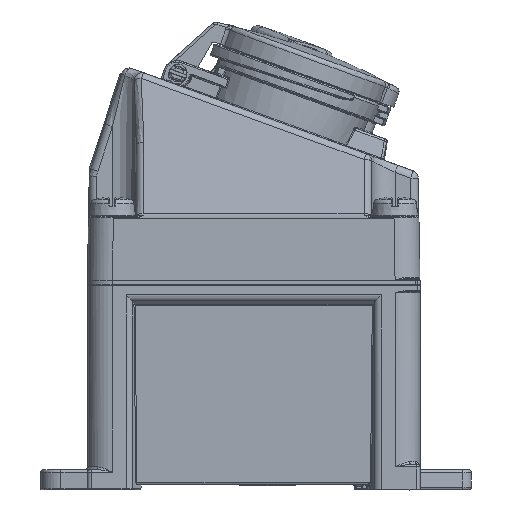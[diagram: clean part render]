
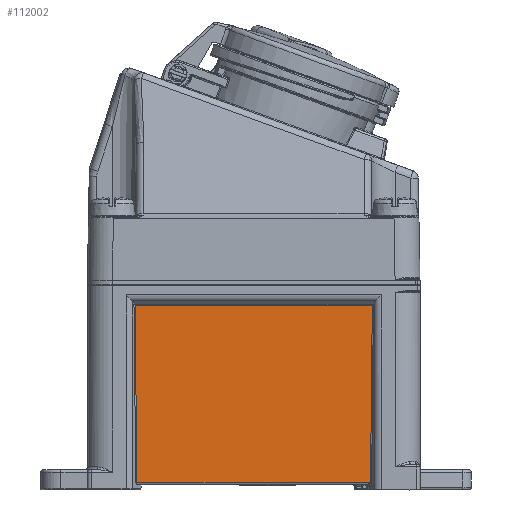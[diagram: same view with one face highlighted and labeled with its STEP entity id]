
A CAD part, left-side view. The second image highlights one B-rep face of the part: STEP entity #112002.
In plain terms, the highlighted planar face has unit normal (-1, 0, -0.018).
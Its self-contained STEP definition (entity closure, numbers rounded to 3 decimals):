
#2852=CARTESIAN_POINT('',(3.779,20.145,2.981));
#2853=CARTESIAN_POINT('',(3.779,20.153,2.982));
#2854=CARTESIAN_POINT('',(3.779,20.167,2.982));
#2855=CARTESIAN_POINT('',(3.779,20.189,2.982));
#2856=CARTESIAN_POINT('',(3.779,20.204,2.983));
#2857=CARTESIAN_POINT('',(3.779,20.212,2.983));
#2878=DIRECTION('',(0.,1.,0.));
#2879=VECTOR('',#2878,90.443);
#2880=CARTESIAN_POINT('',(3.779,20.212,2.983));
#2881=LINE('6548',#2880,#2879);
#2906=DIRECTION('',(0.017,-0.01,-1.));
#2907=VECTOR('',#2906,69.263);
#2908=CARTESIAN_POINT('',(2.57,111.353,72.232));
#2909=LINE('6551',#2908,#2907);
#19580=CARTESIAN_POINT('',(3.782,19.347,2.782));
#19589=CARTESIAN_POINT('',(3.782,19.347,2.782));
#19590=CARTESIAN_POINT('',(3.782,19.426,2.821));
#19591=CARTESIAN_POINT('',(3.78,19.591,2.89));
#19592=CARTESIAN_POINT('',(3.779,19.862,2.959));
#19593=CARTESIAN_POINT('',(3.779,20.049,2.978));
#19594=CARTESIAN_POINT('',(3.779,20.145,2.981));
#19601=DIRECTION('',(0.,-1.,0.));
#19602=VECTOR('',#19601,92.705);
#19603=CARTESIAN_POINT('',(2.57,111.353,72.232));
#19604=LINE('4412',#19603,#19602);
#19609=DIRECTION('',(-0.017,-0.01,1.));
#19610=VECTOR('',#19609,69.464);
#19611=CARTESIAN_POINT('',(3.782,19.347,2.782));
#19612=LINE('6563',#19611,#19610);
#57557=CARTESIAN_POINT('',(2.57,111.353,72.232));
#57558=CARTESIAN_POINT('',(2.57,18.647,72.232));
#57559=VERTEX_POINT('',#57557);
#57560=VERTEX_POINT('',#57558);
#59726=VERTEX_POINT('',#19580);
#59728=VERTEX_POINT('',#19594);
#59730=VERTEX_POINT('',#2857);
#59733=CARTESIAN_POINT('',(3.779,110.655,2.983));
#59734=VERTEX_POINT('',#59733);
#111987=CARTESIAN_POINT('',(2.566,113.125,72.434));
#111988=DIRECTION('',(1.,0.,0.017));
#111989=DIRECTION('',(0.017,0.,-1.));
#111990=AXIS2_PLACEMENT_3D('',#111987,#111988,#111989);
#111991=PLANE('437',#111990);
#111992=ORIENTED_EDGE('6544',*,*,#111974,.T.);
#111993=ORIENTED_EDGE('6546',*,*,#74090,.T.);
#111994=ORIENTED_EDGE('6548',*,*,#74114,.T.);
#111995=ORIENTED_EDGE('6551',*,*,#74170,.F.);
#111997=ORIENTED_EDGE('4412',*,*,#111996,.T.);
#111999=ORIENTED_EDGE('6563',*,*,#111998,.F.);
#112000=EDGE_LOOP('437',(#111992,#111993,#111994,#111995,#111997,#111999));
#112001=FACE_OUTER_BOUND('437',#112000,.F.);
#2858=B_SPLINE_CURVE_WITH_KNOTS('6546',3,(#2852,#2853,#2854,#2855,#2856,#2857),
.UNSPECIFIED.,.F.,.F.,(4,1,1,4),(0.,0.333,0.667,1.),
.UNSPECIFIED.);
#19595=B_SPLINE_CURVE_WITH_KNOTS('6544',3,(#19589,#19590,#19591,#19592,#19593,
#19594),.UNSPECIFIED.,.F.,.F.,(4,1,1,4),(0.,0.333,
0.667,1.),.UNSPECIFIED.);
#74090=EDGE_CURVE('6546',#59728,#59730,#2858,.T.);
#74114=EDGE_CURVE('6548',#59730,#59734,#2881,.T.);
#74170=EDGE_CURVE('6551',#57559,#59734,#2909,.T.);
#111974=EDGE_CURVE('6544',#59726,#59728,#19595,.T.);
#111996=EDGE_CURVE('4412',#57559,#57560,#19604,.T.);
#111998=EDGE_CURVE('6563',#59726,#57560,#19612,.T.);
#112002=ADVANCED_FACE('437',(#112001),#111991,.F.);
